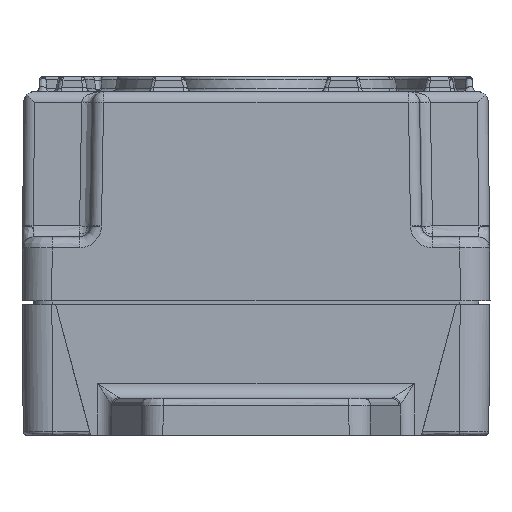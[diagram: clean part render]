
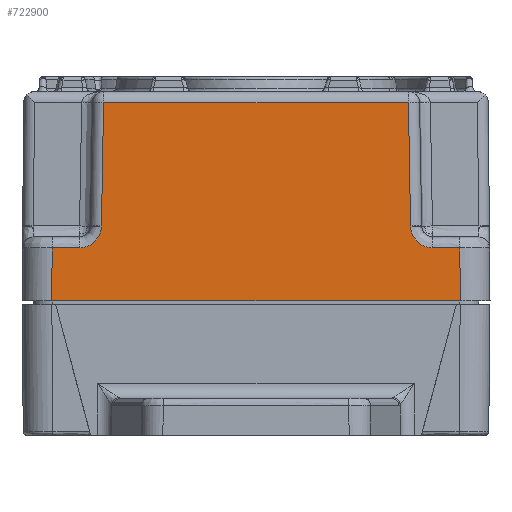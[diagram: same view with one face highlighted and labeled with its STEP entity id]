
A CAD part, left-side view. The second image highlights one B-rep face of the part: STEP entity #722900.
In plain terms, the highlighted planar face has unit normal (-1, 0, 0.009).
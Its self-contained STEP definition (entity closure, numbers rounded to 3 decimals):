
#21810=CARTESIAN_POINT('',(-50.005,27.506,
17.3));
#21820=VERTEX_POINT('',#21810);
#21850=CARTESIAN_POINT('',(-50.005,0.,
17.3));
#21860=DIRECTION('',(0.,1.,0.));
#21870=VECTOR('',#21860,1.);
#21880=LINE('',#21850,#21870);
#21890=CARTESIAN_POINT('',(-50.005,-27.506,
17.3));
#21900=VERTEX_POINT('',#21890);
#21910=EDGE_CURVE('',#21900,#21820,#21880,.T.);
#31650=CARTESIAN_POINT('',(-49.943,23.77,
24.435));
#31660=VERTEX_POINT('',#31650);
#31690=CARTESIAN_POINT('',(-49.943,23.77,
24.435));
#31700=CARTESIAN_POINT('',(-49.943,23.854,
24.435));
#31710=CARTESIAN_POINT('',(-49.943,23.945,
24.433));
#31720=CARTESIAN_POINT('',(-49.943,24.556,
24.433));
#31730=CARTESIAN_POINT('',(-49.943,25.091,
24.433));
#31740=CARTESIAN_POINT('',(-49.943,26.732,
24.433));
#31750=CARTESIAN_POINT('',(-49.943,27.838,
24.433));
#31760=CARTESIAN_POINT('',(-49.943,28.943,
24.433));
#31770=B_SPLINE_CURVE_WITH_KNOTS('',3,(#31690,#31700,#31710,#31720,
#31730,#31740,#31750,#31760),.UNSPECIFIED.,.F.,.F.,(4,2,2,4),(0.,
0.227,1.833,5.15),.UNSPECIFIED.);
#31780=CARTESIAN_POINT('',(-49.943,27.443,
24.433));
#31790=VERTEX_POINT('',#31780);
#31800=EDGE_CURVE('',#31660,#31790,#31770,.T.);
#33050=CARTESIAN_POINT('',(-49.917,20.81,
27.407));
#33060=VERTEX_POINT('',#33050);
#33110=CARTESIAN_POINT('',(-49.917,20.81,
27.407));
#33120=CARTESIAN_POINT('',(-49.917,20.811,
27.398));
#33130=CARTESIAN_POINT('',(-49.917,20.811,
27.388));
#33140=CARTESIAN_POINT('',(-49.918,20.811,
27.369));
#33150=CARTESIAN_POINT('',(-49.918,20.811,
27.359));
#33160=CARTESIAN_POINT('',(-49.918,20.811,
27.344));
#33170=CARTESIAN_POINT('',(-49.918,20.812,
27.312));
#33180=CARTESIAN_POINT('',(-49.918,20.814,
27.262));
#33190=CARTESIAN_POINT('',(-49.919,20.817,
27.217));
#33200=CARTESIAN_POINT('',(-49.92,20.826,
27.113));
#33210=CARTESIAN_POINT('',(-49.921,20.836,
27.028));
#33220=CARTESIAN_POINT('',(-49.925,20.923,
26.497));
#33230=CARTESIAN_POINT('',(-49.93,21.129,
25.996));
#33240=CARTESIAN_POINT('',(-49.936,21.737,
25.208));
#33250=CARTESIAN_POINT('',(-49.939,22.136,
24.894));
#33260=CARTESIAN_POINT('',(-49.942,22.816,
24.592));
#33270=CARTESIAN_POINT('',(-49.942,23.068,
24.517));
#33280=CARTESIAN_POINT('',(-49.943,23.35,
24.468));
#33290=CARTESIAN_POINT('',(-49.943,23.405,
24.461));
#33300=CARTESIAN_POINT('',(-49.943,23.556,
24.445));
#33310=CARTESIAN_POINT('',(-49.943,23.667,
24.439));
#33320=CARTESIAN_POINT('',(-49.943,23.77,
24.435));
#33330=B_SPLINE_CURVE_WITH_KNOTS('',3,(#33110,#33120,#33130,#33140,
#33150,#33160,#33170,#33180,#33190,#33200,#33210,#33220,#33230,#33240,
#33250,#33260,#33270,#33280,#33290,#33300,#33310,#33320),.UNSPECIFIED.,
.F.,.F.,(4,2,2,2,2,2,2,2,2,2,4),(0.,0.466,0.931,
1.088,1.275,1.532,2.98,
4.413,5.122,5.294,5.596),
.UNSPECIFIED.);
#33340=EDGE_CURVE('',#33060,#31660,#33330,.T.);
#34580=CARTESIAN_POINT('',(-49.772,20.52,
44.013));
#34590=VERTEX_POINT('',#34580);
#34620=CARTESIAN_POINT('',(-49.794,20.563,
41.513));
#34630=DIRECTION('',(-0.009,0.017,
-1.));
#34640=VECTOR('',#34630,1.);
#34650=LINE('',#34620,#34640);
#34660=EDGE_CURVE('',#34590,#33060,#34650,.T.);
#721980=CARTESIAN_POINT('',(-49.943,-27.443,
24.433));
#721990=VERTEX_POINT('',#721980);
#722020=CARTESIAN_POINT('',(-49.943,-23.77,
24.435));
#722030=CARTESIAN_POINT('',(-49.943,-23.854,
24.435));
#722040=CARTESIAN_POINT('',(-49.943,-23.945,
24.433));
#722050=CARTESIAN_POINT('',(-49.943,-24.556,
24.433));
#722060=CARTESIAN_POINT('',(-49.943,-25.091,
24.433));
#722070=CARTESIAN_POINT('',(-49.943,-26.732,
24.433));
#722080=CARTESIAN_POINT('',(-49.943,-27.838,
24.433));
#722090=CARTESIAN_POINT('',(-49.943,-28.943,
24.433));
#722100=B_SPLINE_CURVE_WITH_KNOTS('',3,(#722020,#722030,#722040,#722050,
#722060,#722070,#722080,#722090),.UNSPECIFIED.,.F.,.F.,(4,2,2,4),(0.,
0.227,1.833,5.15),.UNSPECIFIED.);
#722110=CARTESIAN_POINT('',(-49.943,-23.77,
24.435));
#722120=VERTEX_POINT('',#722110);
#722130=EDGE_CURVE('',#722120,#721990,#722100,.T.);
#722250=CARTESIAN_POINT('',(-50.,-7.697,
17.92));
#722260=DIRECTION('',(1.,0.,-0.009));
#722270=DIRECTION('',(0.,-1.,0.));
#722280=AXIS2_PLACEMENT_3D('',#722250,#722260,#722270);
#722290=PLANE('',#722280);
#722300=ORIENTED_EDGE('',*,*,#21910,.F.);
#722310=CARTESIAN_POINT('',(-49.947,27.447,
24.003));
#722320=DIRECTION('',(-0.009,0.009,
-1.));
#722330=VECTOR('',#722320,1.);
#722340=LINE('',#722310,#722330);
#722350=EDGE_CURVE('',#31790,#21820,#722340,.T.);
#722360=ORIENTED_EDGE('',*,*,#722350,.T.);
#722370=ORIENTED_EDGE('',*,*,#31800,.T.);
#722380=ORIENTED_EDGE('',*,*,#33340,.T.);
#722390=ORIENTED_EDGE('',*,*,#34660,.T.);
#722400=CARTESIAN_POINT('',(-49.772,-7.697,
44.013));
#722410=DIRECTION('',(0.,1.,0.));
#722420=VECTOR('',#722410,1.);
#722430=LINE('',#722400,#722420);
#722440=CARTESIAN_POINT('',(-49.772,-20.52,
44.013));
#722450=VERTEX_POINT('',#722440);
#722460=EDGE_CURVE('',#722450,#34590,#722430,.T.);
#722470=ORIENTED_EDGE('',*,*,#722460,.T.);
#722480=CARTESIAN_POINT('',(-49.794,-20.563,
41.513));
#722490=DIRECTION('',(-0.009,-0.017,
-1.));
#722500=VECTOR('',#722490,1.);
#722510=LINE('',#722480,#722500);
#722520=CARTESIAN_POINT('',(-49.917,-20.81,
27.407));
#722530=VERTEX_POINT('',#722520);
#722540=EDGE_CURVE('',#722450,#722530,#722510,.T.);
#722550=ORIENTED_EDGE('',*,*,#722540,.F.);
#722560=CARTESIAN_POINT('',(-49.917,-20.81,
27.407));
#722570=CARTESIAN_POINT('',(-49.917,-20.811,
27.398));
#722580=CARTESIAN_POINT('',(-49.917,-20.811,
27.388));
#722590=CARTESIAN_POINT('',(-49.918,-20.811,
27.369));
#722600=CARTESIAN_POINT('',(-49.918,-20.811,
27.359));
#722610=CARTESIAN_POINT('',(-49.918,-20.811,
27.344));
#722620=CARTESIAN_POINT('',(-49.918,-20.812,
27.312));
#722630=CARTESIAN_POINT('',(-49.918,-20.814,
27.262));
#722640=CARTESIAN_POINT('',(-49.919,-20.817,
27.217));
#722650=CARTESIAN_POINT('',(-49.92,-20.826,
27.113));
#722660=CARTESIAN_POINT('',(-49.921,-20.836,
27.028));
#722670=CARTESIAN_POINT('',(-49.925,-20.923,
26.497));
#722680=CARTESIAN_POINT('',(-49.93,-21.129,
25.996));
#722690=CARTESIAN_POINT('',(-49.936,-21.737,
25.208));
#722700=CARTESIAN_POINT('',(-49.939,-22.136,
24.894));
#722710=CARTESIAN_POINT('',(-49.942,-22.816,
24.592));
#722720=CARTESIAN_POINT('',(-49.942,-23.068,
24.517));
#722730=CARTESIAN_POINT('',(-49.943,-23.35,
24.468));
#722740=CARTESIAN_POINT('',(-49.943,-23.405,
24.461));
#722750=CARTESIAN_POINT('',(-49.943,-23.556,
24.445));
#722760=CARTESIAN_POINT('',(-49.943,-23.667,
24.439));
#722770=CARTESIAN_POINT('',(-49.943,-23.77,
24.435));
#722780=B_SPLINE_CURVE_WITH_KNOTS('',3,(#722560,#722570,#722580,#722590,
#722600,#722610,#722620,#722630,#722640,#722650,#722660,#722670,#722680,
#722690,#722700,#722710,#722720,#722730,#722740,#722750,#722760,#722770)
,.UNSPECIFIED.,.F.,.F.,(4,2,2,2,2,2,2,2,2,2,4),(0.,0.466,
0.931,1.088,1.275,1.532,
2.98,4.413,5.122,5.294,
5.596),.UNSPECIFIED.);
#722790=EDGE_CURVE('',#722530,#722120,#722780,.T.);
#722800=ORIENTED_EDGE('',*,*,#722790,.F.);
#722810=ORIENTED_EDGE('',*,*,#722130,.F.);
#722820=CARTESIAN_POINT('',(-49.947,-27.447,
24.003));
#722830=DIRECTION('',(-0.009,-0.009,
-1.));
#722840=VECTOR('',#722830,1.);
#722850=LINE('',#722820,#722840);
#722860=EDGE_CURVE('',#721990,#21900,#722850,.T.);
#722870=ORIENTED_EDGE('',*,*,#722860,.F.);
#722880=EDGE_LOOP('',(#722870,#722810,#722800,#722550,#722470,#722390,
#722380,#722370,#722360,#722300));
#722890=FACE_OUTER_BOUND('',#722880,.T.);
#722900=ADVANCED_FACE('',(#722890),#722290,.F.);
